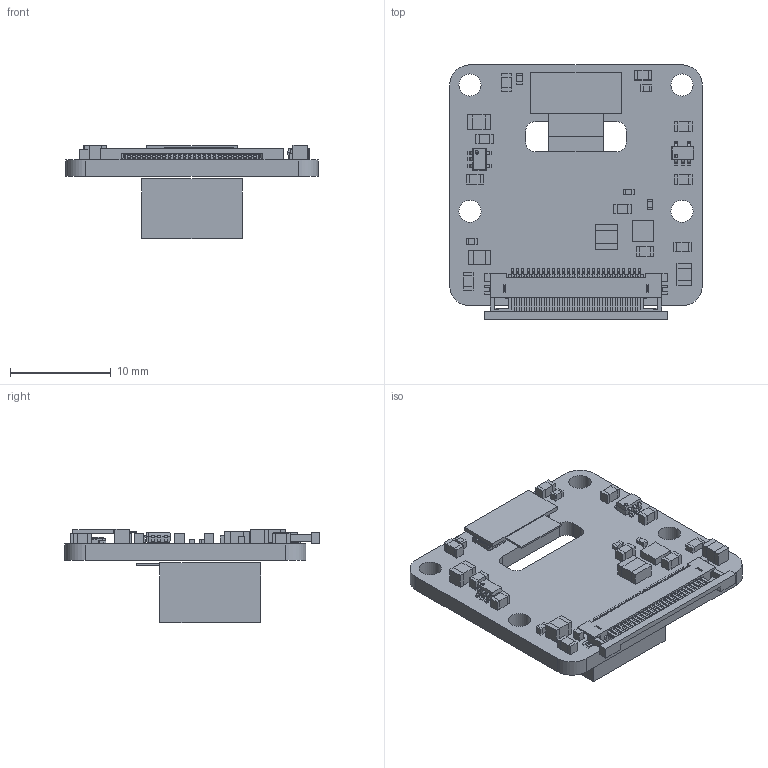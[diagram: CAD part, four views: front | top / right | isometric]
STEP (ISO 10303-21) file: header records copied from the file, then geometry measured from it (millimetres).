
FILE_DESCRIPTION(('Open CASCADE Model'),'2;1');
FILE_NAME('Open CASCADE Shape Model','2021-04-15T07:28:14',('Author'),( 'Open CASCADE'),'Open CASCADE STEP processor 6.8','Open CASCADE 6.8' ,'Unknown');
FILE_SCHEMA(('AUTOMOTIVE_DESIGN { 1 0 10303 214 1 1 1 1 }'));
Products named in the file (1): PCB
Bounding box: 25 x 25.18 x 9.24 mm (x, y, z)
Volume: 1592.2 mm3; surface area: 2763.9 mm2
Topology: 65 solids, 99 shells, 2590 faces, 7556 edges, 5178 vertices
Faces by surface type: plane 2247, cylinder 327, cone 12, sphere 4
Full cylindrical faces by diameter (mm): 2.2 x4
Entity records: 85139 total; most frequent: CARTESIAN_POINT 15425, ORIENTED_EDGE 14690, DIRECTION 13374, EDGE_CURVE 7441, LINE 6856, VECTOR 6856, VERTEX_POINT 4948, AXIS2_PLACEMENT_3D 3259
